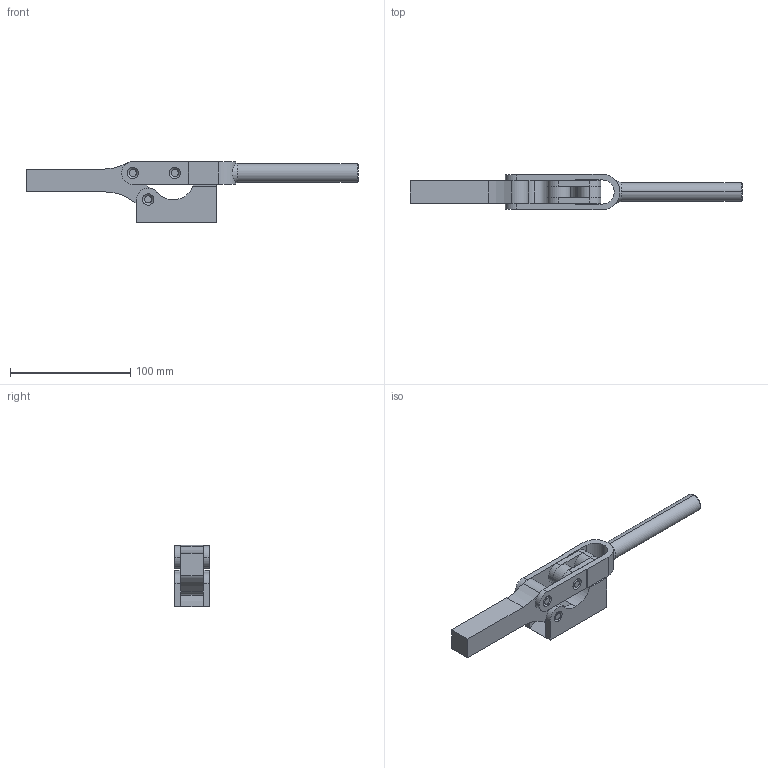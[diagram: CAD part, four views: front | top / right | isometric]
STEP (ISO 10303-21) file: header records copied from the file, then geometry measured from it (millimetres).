
FILE_DESCRIPTION( ( '' ), '1' );
FILE_NAME( 'C:\Documents and Settings\Richard Grenzke\My Documents\Wolverine Company Data\WOLVERINE CD 5_17_05\SOLIDS STEP\hold_down\c310.stp', ' ', ( '' ), ( '' ), 'ACIS Interop R16', 'Kubotek KeyCreator V5.5.1 (0454)', ' ' );
FILE_SCHEMA( ( 'CONFIG_CONTROL_DESIGN' ) );
Length unit declared in the file: inch
Products named in the file (10): 1; 2; 3; 4; 5; 6; 7; 8; 9; 10
Bounding box: 276.23 x 29.59 x 50.95 mm (x, y, z)
Volume: 130989.2 mm3; surface area: 43010.2 mm2
Topology: 9 solids, 9 shells, 140 faces, 382 edges, 260 vertices
Faces by surface type: cylinder 69, plane 51, cone 18, torus 2
Entity records: 5107 total; most frequent: DIRECTION 876, CARTESIAN_POINT 860, ORIENTED_EDGE 764, EDGE_CURVE 382, AXIS2_PLACEMENT_3D 348, VERTEX_POINT 260, CIRCLE 198, LINE 180
